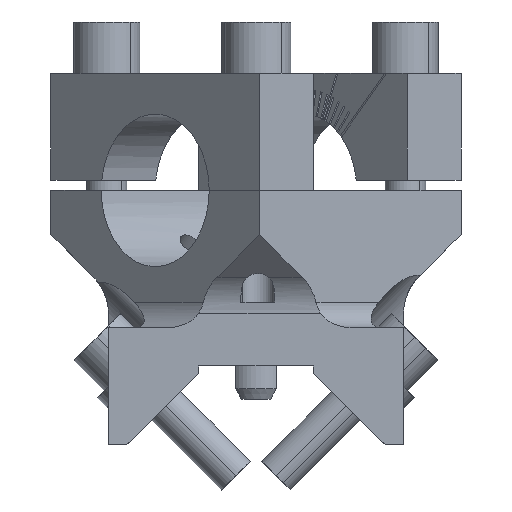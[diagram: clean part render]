
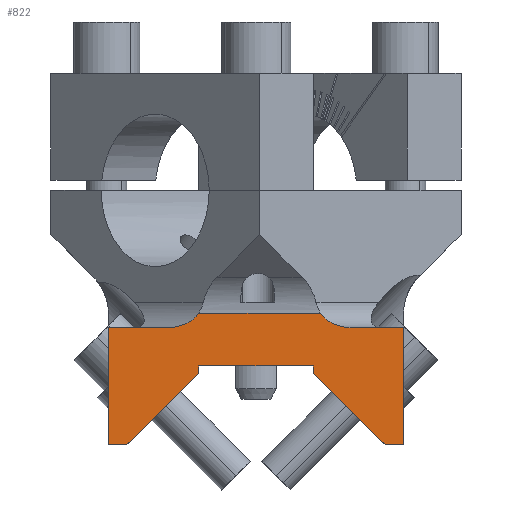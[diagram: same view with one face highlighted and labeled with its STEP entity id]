
A CAD part, front view. The second image highlights one B-rep face of the part: STEP entity #822.
In plain terms, the highlighted planar face has unit normal (0, -1, 0).
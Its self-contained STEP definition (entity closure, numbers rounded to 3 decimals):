
#822=ADVANCED_FACE('Pad.1',(#1977),#1978,.F.);
#1977=FACE_OUTER_BOUND('',#3587,.T.);
#1978=PLANE('',#3588);
#3587=EDGE_LOOP('',(#5600,#5601,#5602,#5603,#5604,#5605,#5606,#5607,#5608,#5609,#5610,#5611,#5612,#5613));
#3588=AXIS2_PLACEMENT_3D('',#5614,#5615,#5616);
#5600=ORIENTED_EDGE('',*,*,#9698,.T.);
#5601=ORIENTED_EDGE('',*,*,#9731,.F.);
#5602=ORIENTED_EDGE('',*,*,#9732,.F.);
#5603=ORIENTED_EDGE('',*,*,#9733,.F.);
#5604=ORIENTED_EDGE('',*,*,#9734,.F.);
#5605=ORIENTED_EDGE('',*,*,#9735,.F.);
#5606=ORIENTED_EDGE('',*,*,#9717,.F.);
#5607=ORIENTED_EDGE('',*,*,#9736,.F.);
#5608=ORIENTED_EDGE('',*,*,#9737,.F.);
#5609=ORIENTED_EDGE('',*,*,#9738,.F.);
#5610=ORIENTED_EDGE('',*,*,#9739,.F.);
#5611=ORIENTED_EDGE('',*,*,#9740,.F.);
#5612=ORIENTED_EDGE('',*,*,#9703,.F.);
#5613=ORIENTED_EDGE('',*,*,#9741,.T.);
#5614=CARTESIAN_POINT('',(0.0,-27.689,0.0));
#5615=DIRECTION('',(0.0,1.0,0.0));
#5616=DIRECTION('',(0.0,0.0,1.0));
#9698=EDGE_CURVE('',#11682,#11680,#11683,.T.);
#9703=EDGE_CURVE('',#11689,#11691,#11692,.T.);
#9717=EDGE_CURVE('',#11713,#11715,#11716,.F.);
#9731=EDGE_CURVE('',#11734,#11680,#11735,.T.);
#9732=EDGE_CURVE('',#11736,#11734,#11737,.T.);
#9733=EDGE_CURVE('',#11738,#11736,#11739,.T.);
#9734=EDGE_CURVE('',#11740,#11738,#11741,.F.);
#9735=EDGE_CURVE('',#11715,#11740,#11742,.T.);
#9736=EDGE_CURVE('',#11743,#11713,#11744,.T.);
#9737=EDGE_CURVE('',#11745,#11743,#11746,.T.);
#9738=EDGE_CURVE('',#11747,#11745,#11748,.F.);
#9739=EDGE_CURVE('',#11749,#11747,#11750,.F.);
#9740=EDGE_CURVE('',#11691,#11749,#11751,.T.);
#9741=EDGE_CURVE('',#11689,#11682,#11752,.T.);
#11680=VERTEX_POINT('',#15253);
#11682=VERTEX_POINT('',#15256);
#11683=B_SPLINE_CURVE_WITH_KNOTS('',5,(#15257,#15258,#15259,#15260,#15261,#15262,#15263,#15264,#15265,#15266,#15267,#15268),.UNSPECIFIED.,.F.,.F.,(6,3,3,6),(0.0,2.765,6.859,10.279),.UNSPECIFIED.);
#11689=VERTEX_POINT('',#15279);
#11691=VERTEX_POINT('',#15285);
#11692=B_SPLINE_CURVE_WITH_KNOTS('',5,(#15286,#15287,#15288,#15289,#15290,#15291,#15292,#15293,#15294,#15295,#15296,#15297),.UNSPECIFIED.,.F.,.F.,(6,3,3,6),(0.0,2.765,6.859,10.279),.UNSPECIFIED.);
#11713=VERTEX_POINT('',#15341);
#11715=VERTEX_POINT('',#15344);
#11716=LINE('',#15345,#15346);
#11734=VERTEX_POINT('',#15369);
#11735=LINE('',#15370,#15371);
#11736=VERTEX_POINT('',#15372);
#11737=LINE('',#15373,#15374);
#11738=VERTEX_POINT('',#15375);
#11739=LINE('',#15376,#15377);
#11740=VERTEX_POINT('',#15378);
#11741=LINE('',#15379,#15380);
#11742=LINE('',#15381,#15382);
#11743=VERTEX_POINT('',#15383);
#11744=LINE('',#15384,#15385);
#11745=VERTEX_POINT('',#15386);
#11746=LINE('',#15387,#15388);
#11747=VERTEX_POINT('',#15389);
#11748=LINE('',#15390,#15391);
#11749=VERTEX_POINT('',#15392);
#11750=LINE('',#15393,#15394);
#11751=LINE('',#15395,#15396);
#11752=LINE('',#15397,#15398);
#15253=CARTESIAN_POINT('',(-16.315,-27.689,0.));
#15256=CARTESIAN_POINT('',(-9.926,-27.689,2.858));
#15257=CARTESIAN_POINT('',(-9.926,-27.689,2.858));
#15258=CARTESIAN_POINT('',(-10.143,-27.689,2.533));
#15259=CARTESIAN_POINT('',(-10.396,-27.689,2.232));
#15260=CARTESIAN_POINT('',(-10.676,-27.689,1.956));
#15261=CARTESIAN_POINT('',(-11.424,-27.689,1.333));
#15262=CARTESIAN_POINT('',(-12.277,-27.689,0.859));
#15263=CARTESIAN_POINT('',(-12.81,-27.689,0.625));
#15264=CARTESIAN_POINT('',(-13.819,-27.689,0.282));
#15265=CARTESIAN_POINT('',(-14.867,-27.689,0.088));
#15266=CARTESIAN_POINT('',(-15.348,-27.689,0.029));
#15267=CARTESIAN_POINT('',(-15.831,-27.689,0.));
#15268=CARTESIAN_POINT('',(-16.315,-27.689,0.));
#15279=CARTESIAN_POINT('',(14.048,-27.689,2.858));
#15285=CARTESIAN_POINT('',(20.437,-27.689,0.));
#15286=CARTESIAN_POINT('',(14.048,-27.689,2.858));
#15287=CARTESIAN_POINT('',(14.266,-27.689,2.533));
#15288=CARTESIAN_POINT('',(14.518,-27.689,2.232));
#15289=CARTESIAN_POINT('',(14.799,-27.689,1.956));
#15290=CARTESIAN_POINT('',(15.546,-27.689,1.333));
#15291=CARTESIAN_POINT('',(16.399,-27.689,0.859));
#15292=CARTESIAN_POINT('',(16.933,-27.689,0.625));
#15293=CARTESIAN_POINT('',(17.942,-27.689,0.282));
#15294=CARTESIAN_POINT('',(18.989,-27.689,0.088));
#15295=CARTESIAN_POINT('',(19.47,-27.689,0.029));
#15296=CARTESIAN_POINT('',(19.954,-27.689,0.));
#15297=CARTESIAN_POINT('',(20.437,-27.689,0.));
#15341=CARTESIAN_POINT('',(12.6,-27.689,-7.5));
#15344=CARTESIAN_POINT('',(-9.892,-27.689,-7.5));
#15345=CARTESIAN_POINT('',(1.354,-27.689,-7.5));
#15346=VECTOR('',#19463,1.0);
#15369=CARTESIAN_POINT('',(-27.646,-27.689,0.));
#15370=CARTESIAN_POINT('',(-21.98,-27.689,0.));
#15371=VECTOR('',#19481,1.0);
#15372=CARTESIAN_POINT('',(-27.646,-27.689,-23.0));
#15373=CARTESIAN_POINT('',(-27.646,-27.689,-11.5));
#15374=VECTOR('',#19482,1.0);
#15375=CARTESIAN_POINT('',(-24.001,-27.689,-23.0));
#15376=CARTESIAN_POINT('',(-25.824,-27.689,-23.0));
#15377=VECTOR('',#19483,1.0);
#15378=CARTESIAN_POINT('',(-9.892,-27.689,-8.891));
#15379=CARTESIAN_POINT('',(-16.947,-27.689,-15.945));
#15380=VECTOR('',#19484,1.0);
#15381=CARTESIAN_POINT('',(-9.892,-27.689,-8.195));
#15382=VECTOR('',#19485,1.0);
#15383=CARTESIAN_POINT('',(12.6,-27.689,-8.891));
#15384=CARTESIAN_POINT('',(12.6,-27.689,-8.195));
#15385=VECTOR('',#19486,1.0);
#15386=CARTESIAN_POINT('',(26.709,-27.689,-23.0));
#15387=CARTESIAN_POINT('',(19.655,-27.689,-15.945));
#15388=VECTOR('',#19487,1.0);
#15389=CARTESIAN_POINT('',(30.354,-27.689,-23.0));
#15390=CARTESIAN_POINT('',(28.532,-27.689,-23.0));
#15391=VECTOR('',#19488,1.0);
#15392=CARTESIAN_POINT('',(30.354,-27.689,0.));
#15393=CARTESIAN_POINT('',(30.354,-27.689,-11.5));
#15394=VECTOR('',#19489,1.0);
#15395=CARTESIAN_POINT('',(25.396,-27.689,0.));
#15396=VECTOR('',#19490,1.0);
#15397=CARTESIAN_POINT('',(2.061,-27.689,2.858));
#15398=VECTOR('',#19491,1.0);
#19463=DIRECTION('',(1.0,0.0,0.0));
#19481=DIRECTION('',(1.0,0.0,0.0));
#19482=DIRECTION('',(0.0,0.0,1.0));
#19483=DIRECTION('',(-1.0,0.0,0.0));
#19484=DIRECTION('',(0.707,0.0,0.707));
#19485=DIRECTION('',(0.0,0.0,-1.0));
#19486=DIRECTION('',(0.0,0.0,1.0));
#19487=DIRECTION('',(-0.707,0.0,0.707));
#19488=DIRECTION('',(1.0,0.0,0.0));
#19489=DIRECTION('',(0.0,0.0,1.0));
#19490=DIRECTION('',(1.0,0.0,0.0));
#19491=DIRECTION('',(-1.0,0.0,0.0));
